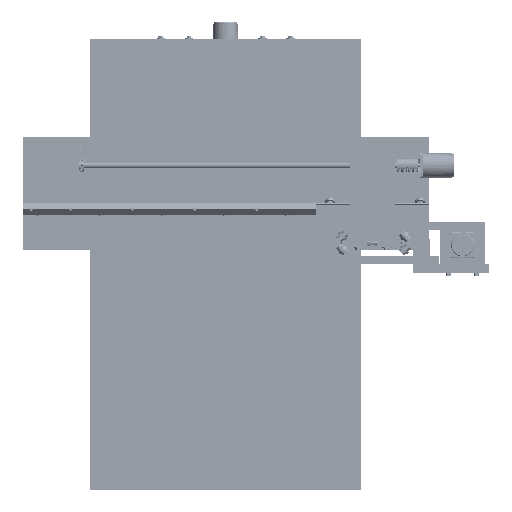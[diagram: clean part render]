
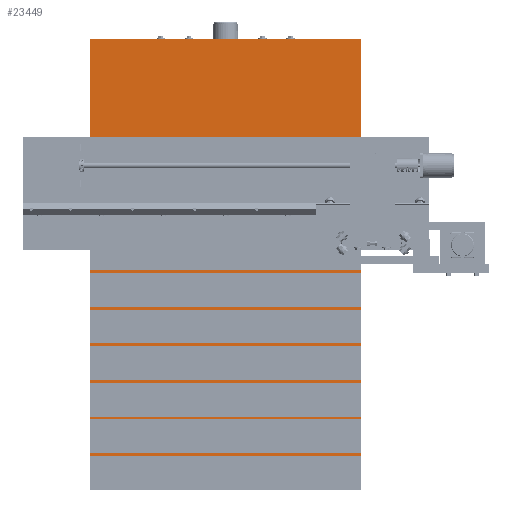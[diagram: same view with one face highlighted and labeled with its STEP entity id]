
A CAD part, top view. The second image highlights one B-rep face of the part: STEP entity #23449.
In plain terms, the highlighted planar face has unit normal (0, 0, 1).
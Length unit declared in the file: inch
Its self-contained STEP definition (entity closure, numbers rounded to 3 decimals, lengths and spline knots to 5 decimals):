
#23449=ADVANCED_FACE('',(#50090),#50091,.T.);
#50090=FACE_OUTER_BOUND('',#99838,.T.);
#50091=PLANE('',#99839);
#99838=EDGE_LOOP('',(#196636,#196637,#196638,#196639));
#99839=AXIS2_PLACEMENT_3D('',#196640,#196641,#196642);
#196636=ORIENTED_EDGE('',*,*,#278585,.T.);
#196637=ORIENTED_EDGE('',*,*,#278586,.T.);
#196638=ORIENTED_EDGE('',*,*,#278587,.T.);
#196639=ORIENTED_EDGE('',*,*,#278588,.T.);
#196640=CARTESIAN_POINT('',(19.625,-3.75,3.34821));
#196641=DIRECTION('',(0.0,0.0,1.0));
#196642=DIRECTION('',(1.0,0.0,0.0));
#278585=EDGE_CURVE('',#318325,#318326,#318327,.T.);
#278586=EDGE_CURVE('',#318326,#318328,#318329,.T.);
#278587=EDGE_CURVE('',#318328,#318330,#318331,.T.);
#278588=EDGE_CURVE('',#318330,#318325,#318332,.T.);
#318325=VERTEX_POINT('',#417902);
#318326=VERTEX_POINT('',#417903);
#318327=LINE('',#417904,#417905);
#318328=VERTEX_POINT('',#417906);
#318329=LINE('',#417907,#417908);
#318330=VERTEX_POINT('',#417909);
#318331=LINE('',#417910,#417911);
#318332=LINE('',#417912,#417913);
#417902=CARTESIAN_POINT('',(31.625,-23.75,3.34821));
#417903=CARTESIAN_POINT('',(31.625,16.25,3.34821));
#417904=CARTESIAN_POINT('',(31.625,-3.75,3.34821));
#417905=VECTOR('',#555953,1.0);
#417906=CARTESIAN_POINT('',(7.625,16.25,3.34821));
#417907=CARTESIAN_POINT('',(19.625,16.25,3.34821));
#417908=VECTOR('',#555954,1.0);
#417909=CARTESIAN_POINT('',(7.625,-23.75,3.34821));
#417910=CARTESIAN_POINT('',(7.625,-3.75,3.34821));
#417911=VECTOR('',#555955,1.0);
#417912=CARTESIAN_POINT('',(19.625,-23.75,3.34821));
#417913=VECTOR('',#555956,1.0);
#555953=DIRECTION('',(0.0,1.0,0.0));
#555954=DIRECTION('',(-1.0,0.0,0.0));
#555955=DIRECTION('',(0.0,-1.0,0.0));
#555956=DIRECTION('',(1.0,0.0,0.0));
